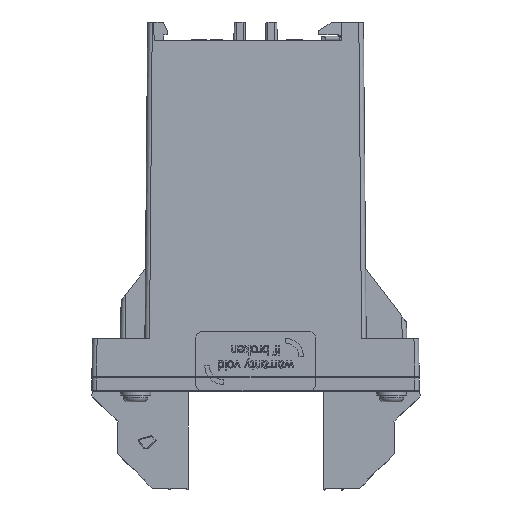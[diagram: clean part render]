
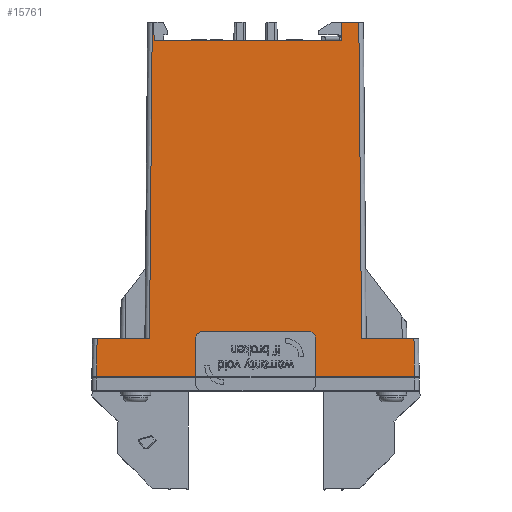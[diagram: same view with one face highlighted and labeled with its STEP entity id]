
A CAD part, left-side view. The second image highlights one B-rep face of the part: STEP entity #15761.
In plain terms, the highlighted planar face has unit normal (-1, 0, 0.009).
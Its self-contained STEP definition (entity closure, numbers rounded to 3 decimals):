
#985=CARTESIAN_POINT('',(-22.5,34.5,-2.6));
#986=VERTEX_POINT('',#985);
#987=CARTESIAN_POINT('',(-22.5,13.,-2.6));
#988=VERTEX_POINT('',#987);
#989=CARTESIAN_POINT('',(-22.5,34.5,-2.6));
#990=DIRECTION('',(0.0,-1.0,0.0));
#991=VECTOR('',#990,21.5);
#992=LINE('',#989,#991);
#993=EDGE_CURVE('',#986,#988,#992,.T.);
#1046=CARTESIAN_POINT('',(-22.5,-34.5,-2.6));
#1047=VERTEX_POINT('',#1046);
#1055=CARTESIAN_POINT('',(-22.5,-13.,-2.6));
#1056=VERTEX_POINT('',#1055);
#1057=CARTESIAN_POINT('',(-22.5,-13.,-2.6));
#1058=DIRECTION('',(0.0,-1.0,0.0));
#1059=VECTOR('',#1058,21.5);
#1060=LINE('',#1057,#1059);
#1061=EDGE_CURVE('',#1056,#1047,#1060,.T.);
#1063=CARTESIAN_POINT('',(-22.5,13.,-2.6));
#1064=DIRECTION('',(0.0,-1.0,0.0));
#1065=VECTOR('',#1064,26.);
#1066=LINE('',#1063,#1065);
#1067=EDGE_CURVE('',#988,#1056,#1066,.T.);
#5089=CARTESIAN_POINT('',(-21.83,22.401,74.2));
#5090=VERTEX_POINT('',#5089);
#5098=CARTESIAN_POINT('',(-21.83,22.072,74.2));
#5099=VERTEX_POINT('',#5098);
#5100=CARTESIAN_POINT('',(-21.83,22.401,74.2));
#5101=DIRECTION('',(0.0,-1.0,0.0));
#5102=VECTOR('',#5101,0.329);
#5103=LINE('',#5100,#5102);
#5104=EDGE_CURVE('',#5090,#5099,#5103,.T.);
#5423=CARTESIAN_POINT('',(-21.83,-18.672,74.2));
#5424=VERTEX_POINT('',#5423);
#5431=CARTESIAN_POINT('',(-21.83,-22.401,74.2));
#5432=VERTEX_POINT('',#5431);
#5433=CARTESIAN_POINT('',(-21.83,-18.672,74.2));
#5434=DIRECTION('',(0.0,-1.0,0.0));
#5435=VECTOR('',#5434,3.729);
#5436=LINE('',#5433,#5435);
#5437=EDGE_CURVE('',#5424,#5432,#5436,.T.);
#12758=CARTESIAN_POINT('',(-21.866,22.,70.1));
#12759=VERTEX_POINT('',#12758);
#12766=CARTESIAN_POINT('',(-21.866,-18.6,70.1));
#12767=VERTEX_POINT('',#12766);
#12768=CARTESIAN_POINT('',(-21.866,-18.6,70.1));
#12769=DIRECTION('',(0.0,1.0,0.0));
#12770=VECTOR('',#12769,40.6);
#12771=LINE('',#12768,#12770);
#12772=EDGE_CURVE('',#12767,#12759,#12771,.T.);
#14316=CARTESIAN_POINT('',(-21.83,-18.672,74.2));
#14317=DIRECTION('',(-0.009,0.017,-1.));
#14318=VECTOR('',#14317,4.101);
#14319=LINE('',#14316,#14318);
#14320=EDGE_CURVE('',#5424,#12767,#14319,.T.);
#14356=CARTESIAN_POINT('',(-22.429,34.359,5.5));
#14357=VERTEX_POINT('',#14356);
#14365=CARTESIAN_POINT('',(-22.429,23.,5.5));
#14366=VERTEX_POINT('',#14365);
#14367=CARTESIAN_POINT('',(-22.429,34.359,5.5));
#14368=DIRECTION('',(0.0,-1.0,0.0));
#14369=VECTOR('',#14368,11.359);
#14370=LINE('',#14367,#14369);
#14371=EDGE_CURVE('',#14357,#14366,#14370,.T.);
#14440=CARTESIAN_POINT('',(-22.429,-23.,5.5));
#14441=VERTEX_POINT('',#14440);
#14442=CARTESIAN_POINT('',(-22.429,-34.359,5.5));
#14443=VERTEX_POINT('',#14442);
#14444=CARTESIAN_POINT('',(-22.429,-23.,5.5));
#14445=DIRECTION('',(0.0,-1.0,0.0));
#14446=VECTOR('',#14445,11.359);
#14447=LINE('',#14444,#14446);
#14448=EDGE_CURVE('',#14441,#14443,#14447,.T.);
#15221=CARTESIAN_POINT('',(-21.866,22.,70.1));
#15222=DIRECTION('',(0.009,0.017,1.));
#15223=VECTOR('',#15222,4.101);
#15224=LINE('',#15221,#15223);
#15225=EDGE_CURVE('',#12759,#5099,#15224,.T.);
#15720=CARTESIAN_POINT('',(-22.5,0.,-2.6));
#15721=DIRECTION('',(-1.,0.,0.009));
#15722=DIRECTION('',(-0.009,0.,-1.));
#15723=AXIS2_PLACEMENT_3D('',#15720,#15721,#15722);
#15724=PLANE('',#15723);
#15725=ORIENTED_EDGE('',*,*,#15225,.T.);
#15726=ORIENTED_EDGE('',*,*,#5104,.F.);
#15727=CARTESIAN_POINT('',(-21.83,22.401,74.2));
#15728=DIRECTION('',(-0.009,0.009,-1.));
#15729=VECTOR('',#15728,68.705);
#15730=LINE('',#15727,#15729);
#15731=EDGE_CURVE('',#5090,#14366,#15730,.T.);
#15732=ORIENTED_EDGE('',*,*,#15731,.T.);
#15733=ORIENTED_EDGE('',*,*,#14371,.F.);
#15734=CARTESIAN_POINT('',(-22.429,34.359,5.5));
#15735=DIRECTION('',(-0.009,0.017,-1.));
#15736=VECTOR('',#15735,8.102);
#15737=LINE('',#15734,#15736);
#15738=EDGE_CURVE('',#14357,#986,#15737,.T.);
#15739=ORIENTED_EDGE('',*,*,#15738,.T.);
#15740=ORIENTED_EDGE('',*,*,#993,.T.);
#15741=ORIENTED_EDGE('',*,*,#1067,.T.);
#15742=ORIENTED_EDGE('',*,*,#1061,.T.);
#15743=CARTESIAN_POINT('',(-22.5,-34.5,-2.6));
#15744=DIRECTION('',(0.009,0.017,1.));
#15745=VECTOR('',#15744,8.102);
#15746=LINE('',#15743,#15745);
#15747=EDGE_CURVE('',#1047,#14443,#15746,.T.);
#15748=ORIENTED_EDGE('',*,*,#15747,.T.);
#15749=ORIENTED_EDGE('',*,*,#14448,.F.);
#15750=CARTESIAN_POINT('',(-22.429,-23.,5.5));
#15751=DIRECTION('',(0.009,0.009,1.));
#15752=VECTOR('',#15751,68.705);
#15753=LINE('',#15750,#15752);
#15754=EDGE_CURVE('',#14441,#5432,#15753,.T.);
#15755=ORIENTED_EDGE('',*,*,#15754,.T.);
#15756=ORIENTED_EDGE('',*,*,#5437,.F.);
#15757=ORIENTED_EDGE('',*,*,#14320,.T.);
#15758=ORIENTED_EDGE('',*,*,#12772,.T.);
#15759=EDGE_LOOP('',(#15725,#15726,#15732,#15733,#15739,#15740,#15741,#15742,#15748,#15749,#15755,#15756,#15757,#15758));
#15760=FACE_OUTER_BOUND('',#15759,.T.);
#15761=ADVANCED_FACE('',(#15760),#15724,.T.);
